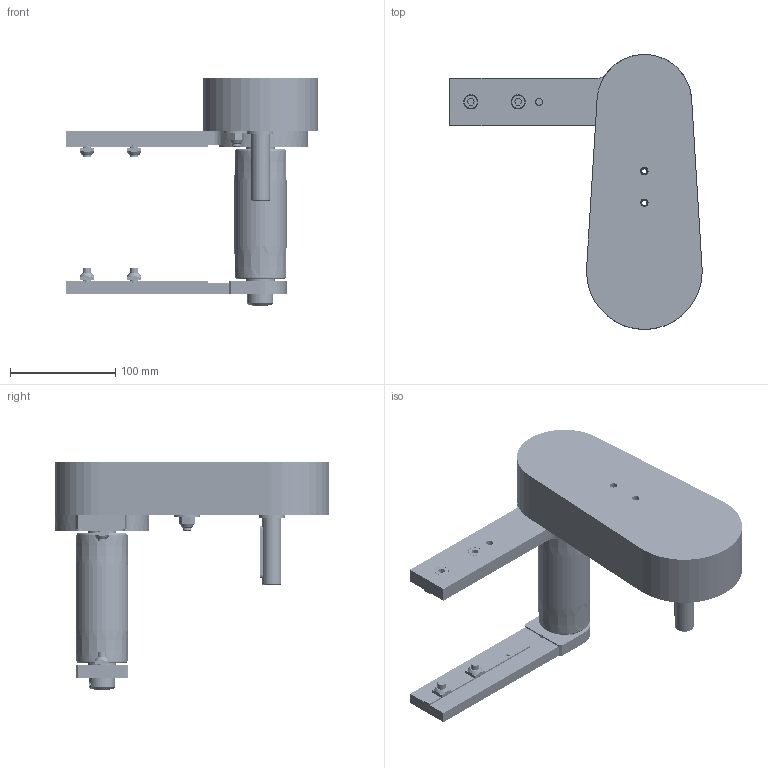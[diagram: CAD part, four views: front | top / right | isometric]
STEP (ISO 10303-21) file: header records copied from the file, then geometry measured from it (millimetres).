
FILE_DESCRIPTION (( 'STEP AP203' ), '1' );
FILE_NAME ('084.050.KTC.44.100.STEP', '2019-07-29T13:15:56', ( '' ), ( '' ), 'SwSTEP 2.0', 'SolidWorks 2018', '' );
FILE_SCHEMA (( 'CONFIG_CONTROL_DESIGN' ));
Length unit declared in the file: millimetre
Products named in the file (24): 084.301.000 VITI ALUSIC_084.301.003; 084.803.014; 084.815.101_Default<A macchina>; 084.813.001; CHIAVETTE_A 6x6x50 UNI 6604-69; 084.810.010; 084.050.KTC.44.100; 084.809.001; 084.811.004; 084.810.004; 084.302.000 DADI ALUSIC 13x13_084.302.004; 084.810.005; 084.802.034_084.802.034; 084.807.002_084.807.002; 084.807.001_084.807.001; CUSCINETTI A SFERE_608-2RS; RONDELLE FASCIA LARGA UNI 6593_8.4x24 UNI 6593; 084.802.017_084.802.017; 084.810.001; Circlip DIN 471 - 8 x 0.8_Circlip DIN 471 - 8 x 0.8; DADI ESAGONALI AUTOBLOCCANTI UNI 7473 INOX_M8 UNI 7473 INOX; 084.813.004; 084.803.012; 084.809.003
Assembly tree (32 placements, depth 3):
  084.050.KTC.44.100
    084.815.101_Default<A macchina>
    084.811.004
    084.813.001
    084.810.001  x2
    084.802.034_084.802.034
    084.802.017_084.802.017
    084.807.001_084.807.001
    084.807.002_084.807.002
    084.803.014  x2
    084.813.004
    084.803.012
    084.809.001
    084.809.003
    084.810.005
      084.810.010
      084.810.004
      CUSCINETTI A SFERE_608-2RS  x2
      Circlip DIN 471 - 8 x 0.8_Circlip DIN 471 - 8 x 0.8
      RONDELLE FASCIA LARGA UNI 6593_8.4x24 UNI 6593
      DADI ESAGONALI AUTOBLOCCANTI UNI 7473 INOX_M8 UNI 7473 INOX
    084.301.000 VITI ALUSIC_084.301.003  x4
    084.302.000 DADI ALUSIC 13x13_084.302.004  x4
    CHIAVETTE_A 6x6x50 UNI 6604-69
Bounding box: 240 x 261.5 x 216 mm (x, y, z)
Volume: 738932.8 mm3; surface area: 410371 mm2
Topology: 61 solids, 62 shells, 2847 faces, 6717 edges, 4293 vertices
Faces by surface type: cylinder 1395, plane 717, bspline 468, cone 172, torus 86, sphere 9
Entity records: 81077 total; most frequent: CARTESIAN_POINT 18452, DIRECTION 13615, ORIENTED_EDGE 11832, EDGE_CURVE 5916, AXIS2_PLACEMENT_3D 5749, VERTEX_POINT 3770, CIRCLE 3636, EDGE_LOOP 3096
